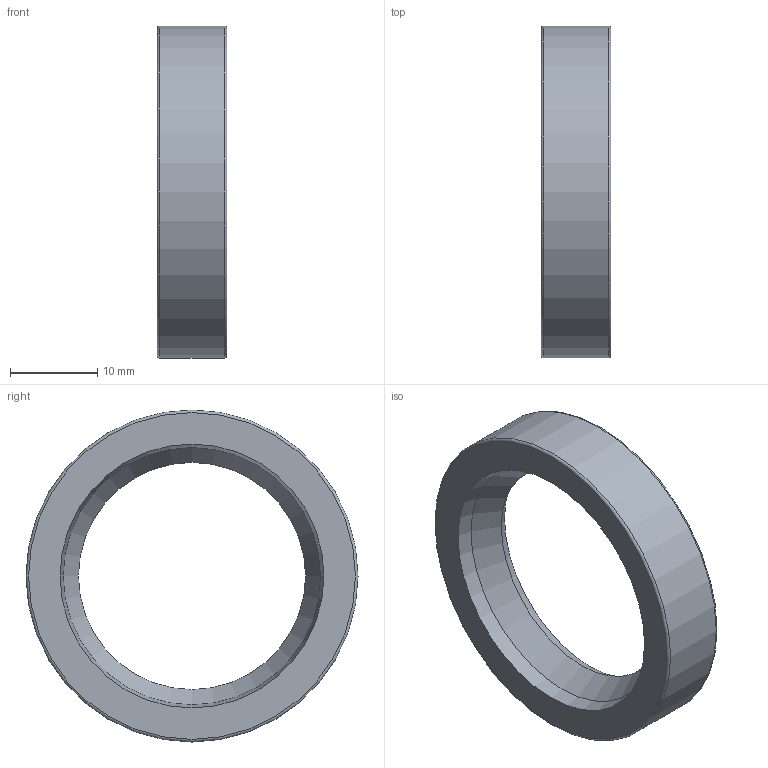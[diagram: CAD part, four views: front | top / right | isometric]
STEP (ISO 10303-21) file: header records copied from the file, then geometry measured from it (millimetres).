
FILE_DESCRIPTION(/* description */ ('오일-실'),/* implementation_level */ '2;1');
FILE_NAME(/* name */ '',/* time_stamp */ '2025-03-27T10:45:50+09:00',/* author */ ('jhkim'),/* organization */ (''),/* preprocessor_version */ 'ST-DEVELOPER v20',/* originating_system */ 'Autodesk Inventor 2025',/* authorisation */ '');
FILE_SCHEMA (('AUTOMOTIVE_DESIGN { 1 0 10303 214 3 1 1 }'));
Length unit declared in the file: millimetre
Products named in the file (1): 오일 실 26 38 8
Bounding box: 8 x 38 x 38 mm (x, y, z)
Volume: 2348.7 mm3; surface area: 3649.7 mm2
Topology: 1 solids, 1 shells, 15 faces, 31 edges, 20 vertices
Faces by surface type: torus 4, plane 4, cone 4, cylinder 3
Full cylindrical faces by diameter (mm): 30.2 x1, 35.5 x1, 38 x1
Entity records: 460 total; most frequent: DIRECTION 87, CARTESIAN_POINT 67, ORIENTED_EDGE 62, AXIS2_PLACEMENT_3D 40, EDGE_CURVE 31, CIRCLE 24, VERTEX_POINT 20, EDGE_LOOP 19
